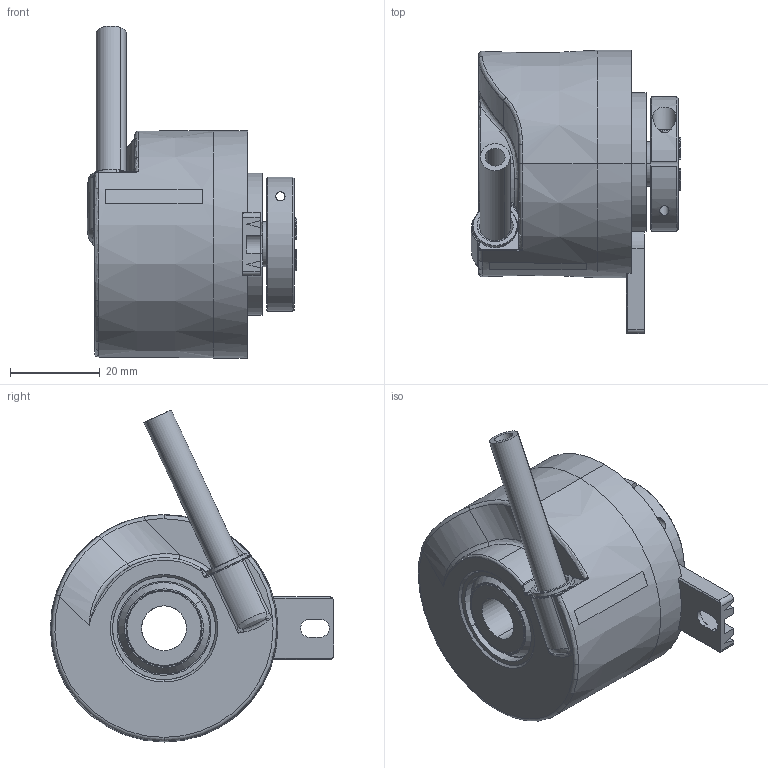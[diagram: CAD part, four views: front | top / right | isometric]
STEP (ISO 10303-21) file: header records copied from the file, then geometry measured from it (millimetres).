
FILE_DESCRIPTION (( 'STEP AP214' ), '1' );
FILE_NAME ('5020.23XE.XXXX.STEP', '2011-01-05T10:05:05', ( 'admin' ), ( 'Fritz Kübler GmbH' ), 'SwSTEP 2.0', 'SolidWorks 2009', '' );
FILE_SCHEMA (( 'AUTOMOTIVE_DESIGN' ));
Length unit declared in the file: millimetre
Products named in the file (1): 5020.23XE.XXXX
Bounding box: 46.7 x 63.3 x 74.14 mm (x, y, z)
Surface area: 16499.7 mm2 (no closed solid volume)
Topology: 0 solids, 12 shells, 200 faces, 598 edges, 395 vertices
Faces by surface type: cylinder 75, plane 63, cone 27, bspline 18, torus 17
Entity records: 11551 total; most frequent: CARTESIAN_POINT 4020, DIRECTION 1141, ORIENTED_EDGE 1020, EDGE_CURVE 592, AXIS2_PLACEMENT_3D 444, VERTEX_POINT 395, CIRCLE 261, VECTOR 253
